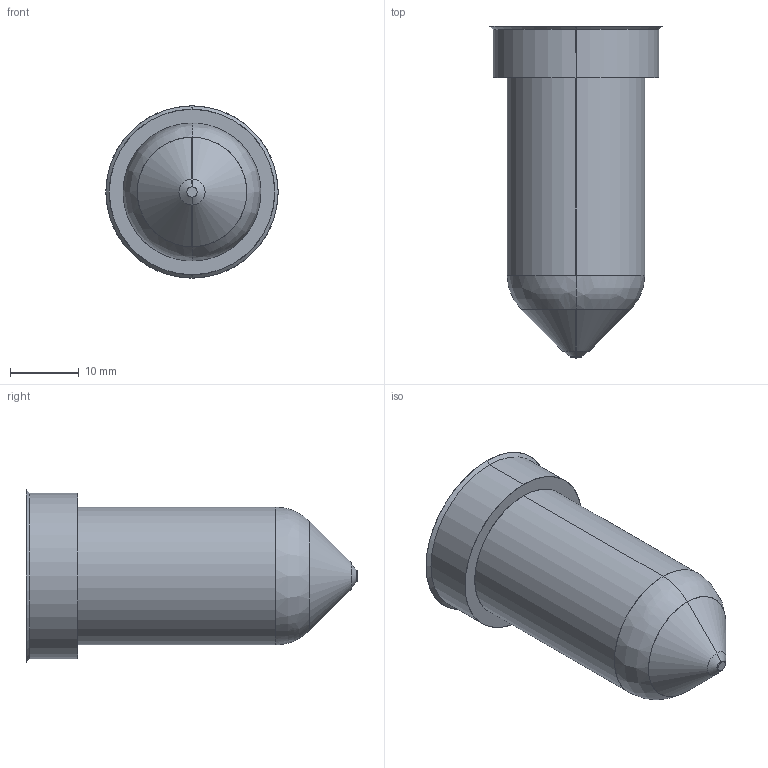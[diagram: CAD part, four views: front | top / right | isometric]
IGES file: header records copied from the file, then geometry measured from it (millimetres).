
Start section: SolidWorks IGES file using analytic representation for surfaces
Global section: file name: C:\Documents and Settings\ws-20\Desktop\TEM\Sede UGGS2520-M-1 C-48 L-80 Ød-1.5.IGS; native system: SolidWorks 2012; preprocessor: SolidWorks 2012; author: ws-20; date: 120516.094037; units: millimetre
Bounding box: 25 x 48.17 x 25 mm (x, y, z)
Surface area: 3612.8 mm2 (no closed solid volume)
Topology: 0 solids, 0 shells, 17 faces, 168 edges, 168 vertices
Faces by surface type: revolution 12, bspline 5
